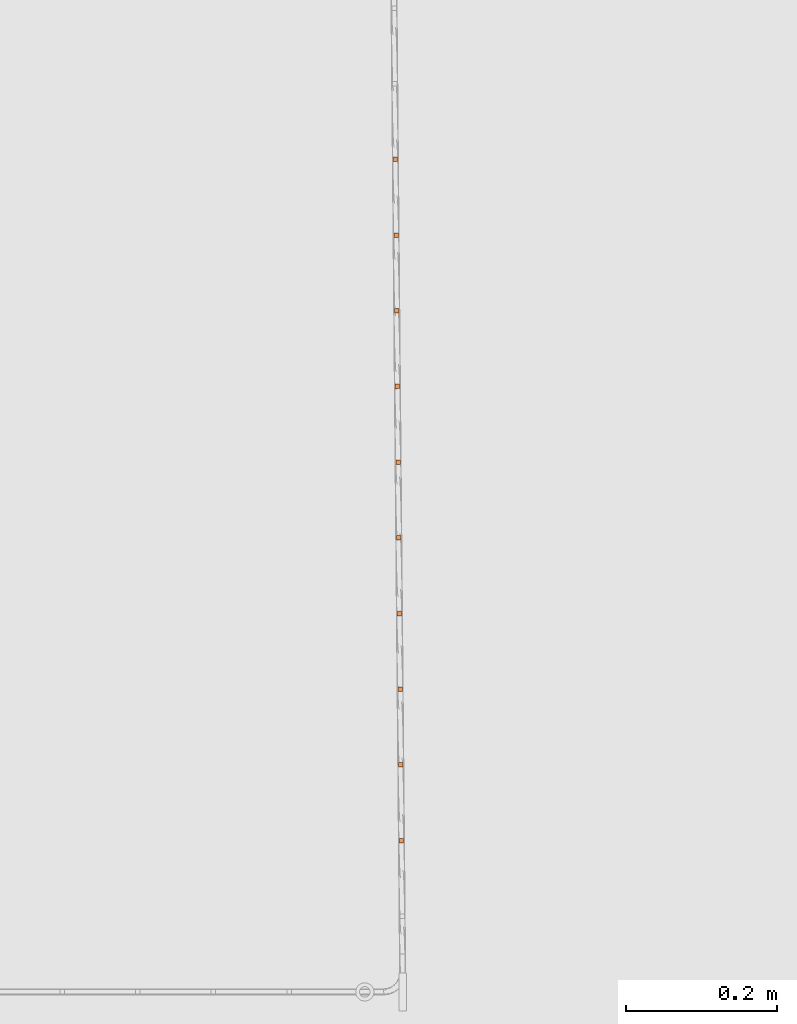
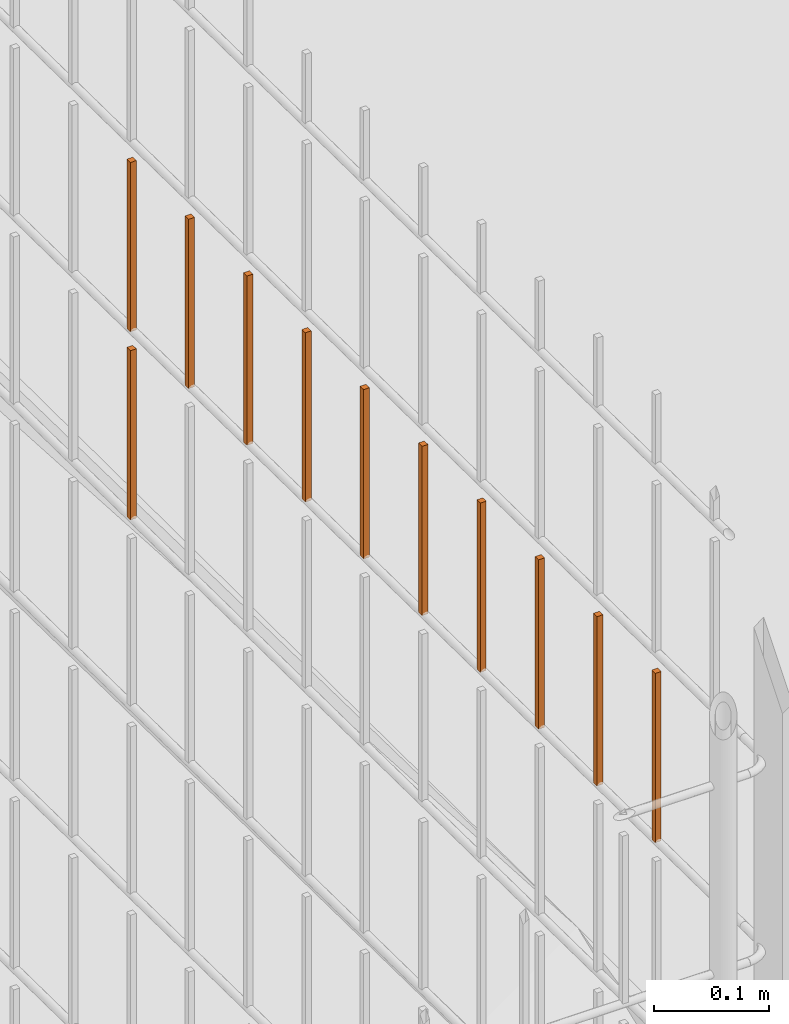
# One storey, part 258 of 1809: 11 proxies, 1 element without a shape of its own.
"""IFC2X3 building model written with IfcOpenShell, lengths in millimetres."""

import ifcopenshell
import ifcopenshell.guid

model = None  # the IFC model being written
_history = None  # IfcOwnerHistory: only IFC2X3 demands one
_inside = {}  # id of a spatial element -> (the spatial element, [elements in it])
_under = {}  # id of a project, library or spatial element -> (it, [spatial elements below it])
_declared = {}  # id of a project -> (the project, [libraries it declares])
_typed = {}  # id of a type object -> (the type object, [elements of that type])
_made_of = {}  # id of a material, layer set ... -> (it, [elements and type objects made of it])


def new_model(schema):
    """Start an empty IFC model of exactly this schema.

    Asked for "IFC4X3", IfcOpenShell would pick the latest addendum, in which some entities
    have other attributes; the version numbers below select the first issue.
    IFC2X3 requires an IfcOwnerHistory on every rooted entity: one is made here for all.
    """
    global model, _history
    if schema == "IFC4X3":
        model = ifcopenshell.file(schema_version=(4, 3, 0, 0))
    else:
        model = ifcopenshell.file(schema=schema)
    _inside.clear()
    _under.clear()
    _declared.clear()
    _typed.clear()
    _made_of.clear()
    _history = None
    if model.schema == "IFC2X3":
        org = make("IfcOrganization", Name="unknown")
        user = make(
            "IfcPersonAndOrganization",
            ThePerson=make("IfcPerson", FamilyName="unknown"),
            TheOrganization=org,
        )
        app = make(
            "IfcApplication",
            ApplicationDeveloper=org,
            Version="unknown",
            ApplicationFullName="unknown",
            ApplicationIdentifier="unknown",
        )
        _history = make(
            "IfcOwnerHistory",
            OwningUser=user,
            OwningApplication=app,
            ChangeAction="ADDED",
            CreationDate=0,
        )
    return model


def make(cls, **values):
    """One entity of the class cls with the attributes given. An attribute that is None is left unset."""
    return model.create_entity(
        cls, **{name: value for name, value in values.items() if value is not None}
    )


def entity(cls, *values):
    """Any entity or typed value of the class cls, its attributes in the order of the schema. None: left unset."""
    e = model.create_entity(cls)
    for i, value in enumerate(values):
        if value is not None:
            e[i] = value
    return e


def rooted(cls, **values):
    """An entity with a GlobalId (a new one), such as an element, a storey or a relation."""
    return make(cls, GlobalId=ifcopenshell.guid.new(), OwnerHistory=_history, **values)


def si_unit(unit_type, name, prefix=None):
    """IfcSIUnit, for example si_unit("LENGTHUNIT", "METRE", prefix="MILLI")."""
    return make("IfcSIUnit", UnitType=unit_type, Prefix=prefix, Name=name)


def converted_unit(unit_type, name, factor, base, dimensions=None, offset=None):
    """IfcConversionBasedUnit, such as the inch: factor (a typed value) times the base unit."""
    return make(
        "IfcConversionBasedUnit"
        if offset is None
        else "IfcConversionBasedUnitWithOffset",
        ConversionOffset=offset,
        Dimensions=None
        if dimensions is None
        else entity("IfcDimensionalExponents", *dimensions),
        UnitType=unit_type,
        Name=name,
        ConversionFactor=make(
            "IfcMeasureWithUnit", ValueComponent=factor, UnitComponent=base
        ),
    )


def derived_unit(unit_type, elements):
    """IfcDerivedUnit: a product of units, each with its exponent."""
    return make(
        "IfcDerivedUnit",
        Elements=[
            make("IfcDerivedUnitElement", Unit=unit, Exponent=power)
            for unit, power in elements
        ],
        UnitType=unit_type,
    )


def money_unit(currency):
    """IfcMonetaryUnit."""
    return make("IfcMonetaryUnit", Currency=currency)


def assignment(units):
    """IfcUnitAssignment: the units of a project."""
    return None if units is None else make("IfcUnitAssignment", Units=units)


def point(xyz):
    """IfcCartesianPoint."""
    return None if xyz is None else make("IfcCartesianPoint", Coordinates=xyz)


def direction(xyz):
    """IfcDirection."""
    return None if xyz is None else make("IfcDirection", DirectionRatios=xyz)


def frame(location, z_axis=None, x_axis=None):
    """IfcAxis2Placement3D, a coordinate frame: its origin and axes. An axis left out is left unset."""
    return make(
        "IfcAxis2Placement3D",
        Location=point(location),
        Axis=direction(z_axis),
        RefDirection=direction(x_axis),
    )


def origin_with_axes():
    """The frame at (0, 0, 0) with the z axis (0, 0, 1) and the x axis (1, 0, 0) written out."""
    return frame((0.0, 0.0, 0.0), z_axis=(0.0, 0.0, 1.0), x_axis=(1.0, 0.0, 0.0))


def place(relative_to, where):
    """IfcLocalPlacement: puts the frame where relative to a parent placement (None: the world)."""
    return make(
        "IfcLocalPlacement", PlacementRelTo=relative_to, RelativePlacement=where
    )


def context(
    kind, dimensions, precision=None, world=None, true_north=None, identifier=None
):
    """IfcGeometricRepresentationContext, for example the 3D "Model" context."""
    return make(
        "IfcGeometricRepresentationContext",
        ContextIdentifier=identifier,
        ContextType=kind,
        CoordinateSpaceDimension=dimensions,
        Precision=precision,
        WorldCoordinateSystem=world,
        TrueNorth=true_north,
    )


def subcontext(parent, identifier, kind, view, scale=None):
    """IfcGeometricRepresentationSubContext, for example "Body" below "Model"."""
    return make(
        "IfcGeometricRepresentationSubContext",
        ContextIdentifier=identifier,
        ContextType=kind,
        ParentContext=parent,
        TargetScale=scale,
        TargetView=view,
    )


def project(units=None, contexts=None):
    """IfcProject with its units and contexts."""
    return rooted(
        "IfcProject",
        Name="project",
        RepresentationContexts=contexts,
        UnitsInContext=assignment(units),
    )


def spatial(cls, under=None, at=None, **own):
    """A site, building, storey or space (cls), placed at a placement, below another one or the project."""
    s = rooted(cls, ObjectPlacement=at, **own)
    if under is not None:
        _under.setdefault(under.id(), (under, []))[1].append(s)
    return s


def faces_of(points, faces, orient=None, outer=None):
    """IfcFace entities. A face is a list of loops; a loop is a list of indices into points, from 0.

    orient and outer hold one flag for each loop. By default every Orientation is true, the
    first loop of a face is its IfcFaceOuterBound and the others are IfcFaceBound.
    """
    made = []
    for i, loops in enumerate(faces):
        bounds = []
        for j, loop in enumerate(loops):
            is_outer = j == 0 if outer is None else outer[i][j]
            bounds.append(
                make(
                    "IfcFaceOuterBound" if is_outer else "IfcFaceBound",
                    Bound=make("IfcPolyLoop", Polygon=[points[k] for k in loop]),
                    Orientation=True if orient is None else orient[i][j],
                )
            )
        made.append(make("IfcFace", Bounds=bounds))
    return made


def faceted_brep(points, faces, orient=None, outer=None, voids=None):
    """IfcFacetedBrep: a solid bounded by flat faces; with voids (closed shells), ...WithVoids."""
    shared = [point(p) for p in points]
    hull = make("IfcClosedShell", CfsFaces=faces_of(shared, faces, orient, outer))
    if voids is None:
        return make("IfcFacetedBrep", Outer=hull)
    return make(
        "IfcFacetedBrepWithVoids",
        Outer=hull,
        Voids=[
            make(cls, CfsFaces=faces_of(shared, fs, o, b)) for cls, fs, o, b in voids
        ],
    )


def shape(context_of_items, identifier, shape_type, items):
    """IfcShapeRepresentation: the items that make up one representation, for example the "Body"."""
    return make(
        "IfcShapeRepresentation",
        ContextOfItems=context_of_items,
        RepresentationIdentifier=identifier,
        RepresentationType=shape_type,
        Items=items,
    )


def source(mapping_origin, context_of_items, identifier, shape_type, items):
    """IfcRepresentationMap: a shape defined once, which mapped items show again and again."""
    return make(
        "IfcRepresentationMap",
        MappingOrigin=mapping_origin,
        MappedRepresentation=shape(context_of_items, identifier, shape_type, items),
    )


def transform(
    local_origin,
    x_axis=None,
    y_axis=None,
    z_axis=None,
    scale=None,
    scale2=None,
    scale3=None,
    uniform=True,
):
    """IfcCartesianTransformationOperator3D, or its non-uniform kind. x_axis, y_axis, z_axis: its Axis1, 2, 3."""
    if uniform:
        return make(
            "IfcCartesianTransformationOperator3D",
            Axis1=direction(x_axis),
            Axis2=direction(y_axis),
            LocalOrigin=point(local_origin),
            Scale=scale,
            Axis3=direction(z_axis),
        )
    return make(
        "IfcCartesianTransformationOperator3DnonUniform",
        Axis1=direction(x_axis),
        Axis2=direction(y_axis),
        LocalOrigin=point(local_origin),
        Scale=scale,
        Axis3=direction(z_axis),
        Scale2=scale2,
        Scale3=scale3,
    )


def mapped(mapping_source, mapping_target):
    """IfcMappedItem: shows the shape of a source again, moved by a transform."""
    return make(
        "IfcMappedItem", MappingSource=mapping_source, MappingTarget=mapping_target
    )


def material(Name=None, Category=None):
    """IfcMaterial."""
    return make("IfcMaterial", Name=Name, Category=Category)


def made_of(thing, what):
    """Note that an element or type object is made of a material, layer set ...; save() writes the relation."""
    if what is not None:
        _made_of.setdefault(what.id(), (what, []))[1].append(thing)
    return thing


def type_object(cls, material=None, **own):
    """A type object (cls), such as IfcWallType, which elements share."""
    return made_of(rooted(cls, **own), material)


def element(
    cls,
    number,
    at=None,
    inside=None,
    cuts=None,
    type_object=None,
    material=None,
    context=None,
    identifier="Body",
    shape_type=None,
    held_by="IfcProductDefinitionShape",
    body=None,
    shapes=None,
    **own,
):
    """One element of the class cls, such as IfcWall. Its Tag is "e" and its number.

    at: its placement. inside: the storey or other place that contains it. cuts: it is an
    opening in that element (IfcRelVoidsElement). A single representation is given by context,
    identifier, shape_type and body (its items); several are given by shapes. held_by: the class
    of the entity that holds the representations. save() writes the other relations.
    """
    e = rooted(cls, Tag="e%d" % number, ObjectPlacement=at, **own)
    if body is not None:
        shapes = [shape(context, identifier, shape_type, body)]
    if shapes is not None:
        e.Representation = make(held_by, Representations=shapes)
    if inside is not None:
        _inside.setdefault(inside.id(), (inside, []))[1].append(e)
    if cuts is not None:
        rooted(
            "IfcRelVoidsElement", RelatingBuildingElement=cuts, RelatedOpeningElement=e
        )
    if type_object is not None:
        _typed.setdefault(type_object.id(), (type_object, []))[1].append(e)
    return made_of(e, material)


def aggregate(whole, parts):
    """IfcRelAggregates: a whole, such as a stair, and the parts it consists of."""
    return rooted("IfcRelAggregates", RelatingObject=whole, RelatedObjects=parts)


def save(model, path):
    """Write the relations noted so far, then the file.

    IfcRelAggregates (storeys below a building ...), IfcRelContainedInSpatialStructure (elements
    in a storey), IfcRelDefinesByType, IfcRelAssociatesMaterial and IfcRelDeclares: one each for
    every whole, place, type object, material and project.
    """
    for whole, parts in _under.values():
        aggregate(whole, parts)
    for where, things in _inside.values():
        rooted(
            "IfcRelContainedInSpatialStructure",
            RelatedElements=things,
            RelatingStructure=where,
        )
    for kind, things in _typed.values():
        rooted("IfcRelDefinesByType", RelatedObjects=things, RelatingType=kind)
    for what, things in _made_of.values():
        rooted("IfcRelAssociatesMaterial", RelatedObjects=things, RelatingMaterial=what)
    for by, libraries in _declared.values():
        rooted("IfcRelDeclares", RelatingContext=by, RelatedDefinitions=libraries)
    model.write(path)


model = new_model("IFC2X3")

# Units and contexts
model_context = context("Model", 3, precision=0.01, world=origin_with_axes(), true_north=direction((0.0, 1.0)))
body_context = subcontext(model_context, "Body", "Model", "MODEL_VIEW")
ifc_project = project(units=[si_unit("LENGTHUNIT", "METRE", prefix="MILLI"), si_unit("AREAUNIT", "SQUARE_METRE"), si_unit("VOLUMEUNIT", "CUBIC_METRE"), converted_unit("PLANEANGLEUNIT", "DEGREE", entity("IfcPlaneAngleMeasure", 0.0174532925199), si_unit("PLANEANGLEUNIT", "RADIAN"), dimensions=[0, 0, 0, 0, 0, 0, 0]), si_unit("SOLIDANGLEUNIT", "STERADIAN"), money_unit("EUR"), converted_unit("TIMEUNIT", "Year", entity("IfcTimeMeasure", 31556926.0), si_unit("TIMEUNIT", "SECOND"), dimensions=[0, 0, 1, 0, 0, 0, 0]), si_unit("MASSUNIT", "GRAM", prefix="KILO"), si_unit("THERMODYNAMICTEMPERATUREUNIT", "DEGREE_CELSIUS"), si_unit("LUMINOUSINTENSITYUNIT", "LUMEN"), si_unit("ENERGYUNIT", "JOULE", prefix="MEGA"), derived_unit("THERMALCONDUCTANCEUNIT", [(si_unit("POWERUNIT", "WATT"), 1), (si_unit("LENGTHUNIT", "METRE"), -1), (si_unit("THERMODYNAMICTEMPERATUREUNIT", "KELVIN"), -1)]), derived_unit("SPECIFICHEATCAPACITYUNIT", [(si_unit("ENERGYUNIT", "JOULE"), 1), (si_unit("MASSUNIT", "GRAM", prefix="KILO"), -1), (si_unit("THERMODYNAMICTEMPERATUREUNIT", "KELVIN"), -1)]), derived_unit("MASSDENSITYUNIT", [(si_unit("MASSUNIT", "GRAM", prefix="KILO"), 1), (si_unit("VOLUMEUNIT", "CUBIC_METRE"), -1)])], contexts=[model_context])

# Site, building, storey
site_placement = place(None, origin_with_axes())
site = spatial("IfcSite", under=ifc_project, at=site_placement, Name="Politse- ja Piirivalveameti ning Päästeameti ühishoone", CompositionType="ELEMENT")
building_placement = place(site_placement, origin_with_axes())
building = spatial("IfcBuilding", under=site, at=building_placement, Name="Politse- ja Piirivalveameti ning Päästeameti ühishoone", CompositionType="ELEMENT")
storey_placement = place(building_placement, origin_with_axes())
storey = spatial("IfcBuildingStorey", under=building, at=storey_placement, Name="Esimene korrus", CompositionType="ELEMENT", Elevation=0.0)

# Proxies
building_element_proxy_type_1 = type_object("IfcBuildingElementProxyType", Name="Railing Type", PredefinedType="NOTDEFINED")
proxy_1_placement = place(storey_placement, frame((-16775.8601056, 25156.7555964, 0.0), z_axis=(0.0, 0.0, 1.0), x_axis=(1.0, 0.0, 0.0)))
proxy_1 = element("IfcBuildingElementProxy", 1, at=proxy_1_placement, inside=storey, type_object=building_element_proxy_type_1, Name="KENNELI PIIRE")
ifc_material = material(Name="Teras - Konstruktsioon")
building_element_proxy_type_2 = type_object("IfcBuildingElementProxyType", Name="IfcBuildingElementProxy", PredefinedType="NOTDEFINED")
shared_shape_1 = source(origin_with_axes(), body_context, "Body", "Brep", [
    faceted_brep([(3.0, 3.0, 0.0), (-3.0, 3.0, 0.0), (-3.0, 3.0, 180.000012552), (3.0, 3.0, 180.000012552), (3.0, -3.0, 0.0), (-3.0, -3.0, 0.0), (-3.0, -3.0, 180.000012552), (3.0, -3.0, 180.000012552)], [[[0, 1, 2, 3]], [[0, 4, 5, 1]], [[1, 5, 6, 2]], [[3, 2, 6, 7]], [[4, 0, 3, 7]], [[5, 4, 7, 6]]]),
])
proxy_2_placement = place(proxy_1_placement, frame((166.154297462, -15868.8481914, 2003.99998745), z_axis=(0.0, 0.0, 1.0), x_axis=(1.0, 0.0, 0.0)))
proxy_2 = element("IfcBuildingElementProxy", 2, at=proxy_2_placement, type_object=building_element_proxy_type_2, material=ifc_material, Name="BALUSTER - 001", context=body_context, shape_type="MappedRepresentation", body=[
    mapped(shared_shape_1, transform((0.0, 0.0, 0.0), x_axis=(0.999960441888, 0.00889464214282, 0.0), y_axis=(-0.00889464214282, 0.999960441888, 0.0), z_axis=(0.0, 0.0, 1.0))),
])
proxy_3_placement = place(proxy_1_placement, frame((165.264833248, -15768.8521472, 2003.99998745), z_axis=(0.0, 0.0, 1.0), x_axis=(1.0, 0.0, 0.0)))
proxy_3 = element("IfcBuildingElementProxy", 3, at=proxy_3_placement, type_object=building_element_proxy_type_2, material=ifc_material, Name="BALUSTER - 001", context=body_context, shape_type="MappedRepresentation", body=[
    mapped(shared_shape_1, transform((0.0, 0.0, 0.0), x_axis=(0.999960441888, 0.00889464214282, 0.0), y_axis=(-0.00889464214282, 0.999960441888, 0.0), z_axis=(0.0, 0.0, 1.0))),
])
proxy_4_placement = place(proxy_1_placement, frame((164.375369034, -15668.856103, 2003.99998745), z_axis=(0.0, 0.0, 1.0), x_axis=(1.0, 0.0, 0.0)))
proxy_4 = element("IfcBuildingElementProxy", 4, at=proxy_4_placement, type_object=building_element_proxy_type_2, material=ifc_material, Name="BALUSTER - 001", context=body_context, shape_type="MappedRepresentation", body=[
    mapped(shared_shape_1, transform((0.0, 0.0, 0.0), x_axis=(0.999960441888, 0.00889464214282, 0.0), y_axis=(-0.00889464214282, 0.999960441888, 0.0), z_axis=(0.0, 0.0, 1.0))),
])
proxy_5_placement = place(proxy_1_placement, frame((163.48590482, -15568.8600589, 2003.99998745), z_axis=(0.0, 0.0, 1.0), x_axis=(1.0, 0.0, 0.0)))
proxy_5 = element("IfcBuildingElementProxy", 5, at=proxy_5_placement, type_object=building_element_proxy_type_2, material=ifc_material, Name="BALUSTER - 001", context=body_context, shape_type="MappedRepresentation", body=[
    mapped(shared_shape_1, transform((0.0, 0.0, 0.0), x_axis=(0.999960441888, 0.00889464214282, 0.0), y_axis=(-0.00889464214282, 0.999960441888, 0.0), z_axis=(0.0, 0.0, 1.0))),
])
proxy_6_placement = place(proxy_1_placement, frame((162.596440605, -15468.8640147, 2003.99998745), z_axis=(0.0, 0.0, 1.0), x_axis=(1.0, 0.0, 0.0)))
proxy_6 = element("IfcBuildingElementProxy", 6, at=proxy_6_placement, type_object=building_element_proxy_type_2, material=ifc_material, Name="BALUSTER - 001", context=body_context, shape_type="MappedRepresentation", body=[
    mapped(shared_shape_1, transform((0.0, 0.0, 0.0), x_axis=(0.999960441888, 0.00889464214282, 0.0), y_axis=(-0.00889464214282, 0.999960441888, 0.0), z_axis=(0.0, 0.0, 1.0))),
])
proxy_7_placement = place(proxy_1_placement, frame((161.706976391, -15368.8679705, 2003.99998745), z_axis=(0.0, 0.0, 1.0), x_axis=(1.0, 0.0, 0.0)))
proxy_7 = element("IfcBuildingElementProxy", 7, at=proxy_7_placement, type_object=building_element_proxy_type_2, material=ifc_material, Name="BALUSTER - 001", context=body_context, shape_type="MappedRepresentation", body=[
    mapped(shared_shape_1, transform((0.0, 0.0, 0.0), x_axis=(0.999960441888, 0.00889464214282, 0.0), y_axis=(-0.00889464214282, 0.999960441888, 0.0), z_axis=(0.0, 0.0, 1.0))),
])
proxy_8_placement = place(proxy_1_placement, frame((160.817512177, -15268.8719263, 2003.99998745), z_axis=(0.0, 0.0, 1.0), x_axis=(1.0, 0.0, 0.0)))
proxy_8 = element("IfcBuildingElementProxy", 8, at=proxy_8_placement, type_object=building_element_proxy_type_2, material=ifc_material, Name="BALUSTER - 001", context=body_context, shape_type="MappedRepresentation", body=[
    mapped(shared_shape_1, transform((0.0, 0.0, 0.0), x_axis=(0.999960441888, 0.00889464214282, 0.0), y_axis=(-0.00889464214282, 0.999960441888, 0.0), z_axis=(0.0, 0.0, 1.0))),
])
proxy_9_placement = place(proxy_1_placement, frame((159.928047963, -15168.8758821, 2003.99998745), z_axis=(0.0, 0.0, 1.0), x_axis=(1.0, 0.0, 0.0)))
proxy_9 = element("IfcBuildingElementProxy", 9, at=proxy_9_placement, type_object=building_element_proxy_type_2, material=ifc_material, Name="BALUSTER - 001", context=body_context, shape_type="MappedRepresentation", body=[
    mapped(shared_shape_1, transform((0.0, 0.0, 0.0), x_axis=(0.999960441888, 0.00889464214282, 0.0), y_axis=(-0.00889464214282, 0.999960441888, 0.0), z_axis=(0.0, 0.0, 1.0))),
])
proxy_10_placement = place(proxy_1_placement, frame((159.038583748, -15068.8798379, 2003.99998745), z_axis=(0.0, 0.0, 1.0), x_axis=(1.0, 0.0, 0.0)))
proxy_10 = element("IfcBuildingElementProxy", 10, at=proxy_10_placement, type_object=building_element_proxy_type_2, material=ifc_material, Name="BALUSTER - 001", context=body_context, shape_type="MappedRepresentation", body=[
    mapped(shared_shape_1, transform((0.0, 0.0, 0.0), x_axis=(0.999960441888, 0.00889464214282, 0.0), y_axis=(-0.00889464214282, 0.999960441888, 0.0), z_axis=(0.0, 0.0, 1.0))),
])
proxy_11_placement = place(proxy_1_placement, frame((158.149119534, -14968.8837937, 2003.99998745), z_axis=(0.0, 0.0, 1.0), x_axis=(1.0, 0.0, 0.0)))
proxy_11 = element("IfcBuildingElementProxy", 11, at=proxy_11_placement, type_object=building_element_proxy_type_2, material=ifc_material, Name="BALUSTER - 001", context=body_context, shape_type="MappedRepresentation", body=[
    mapped(shared_shape_1, transform((0.0, 0.0, 0.0), x_axis=(0.999960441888, 0.00889464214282, 0.0), y_axis=(-0.00889464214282, 0.999960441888, 0.0), z_axis=(0.0, 0.0, 1.0))),
])
shared_shape_2 = source(origin_with_axes(), body_context, "Body", "Brep", [
    faceted_brep([(3.0, 3.0, 0.0), (-3.0, 3.0, 0.0), (-3.0, 3.0, 180.000012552), (3.0, 3.0, 180.000012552), (3.0, -3.0, 0.0), (-3.0, -3.0, 0.0), (-3.0, -3.0, 180.000012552), (3.0, -3.0, 180.000012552)], [[[0, 1, 2, 3]], [[0, 4, 5, 1]], [[1, 5, 6, 2]], [[3, 2, 6, 7]], [[4, 0, 3, 7]], [[5, 4, 7, 6]]]),
])
proxy_12_placement = place(proxy_1_placement, frame((158.149119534, -14968.8837937, 1803.99998745), z_axis=(0.0, 0.0, 1.0), x_axis=(1.0, 0.0, 0.0)))
proxy_12 = element("IfcBuildingElementProxy", 12, at=proxy_12_placement, type_object=building_element_proxy_type_2, material=ifc_material, Name="BALUSTER - 001", context=body_context, shape_type="MappedRepresentation", body=[
    mapped(shared_shape_2, transform((0.0, 0.0, 0.0), x_axis=(0.999960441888, 0.00889464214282, 0.0), y_axis=(-0.00889464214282, 0.999960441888, 0.0), z_axis=(0.0, 0.0, 1.0))),
])
aggregate(proxy_1, [proxy_12, proxy_2, proxy_3, proxy_4, proxy_5, proxy_6, proxy_7, proxy_8, proxy_9, proxy_10, proxy_11])

save(model, "model.ifc")
